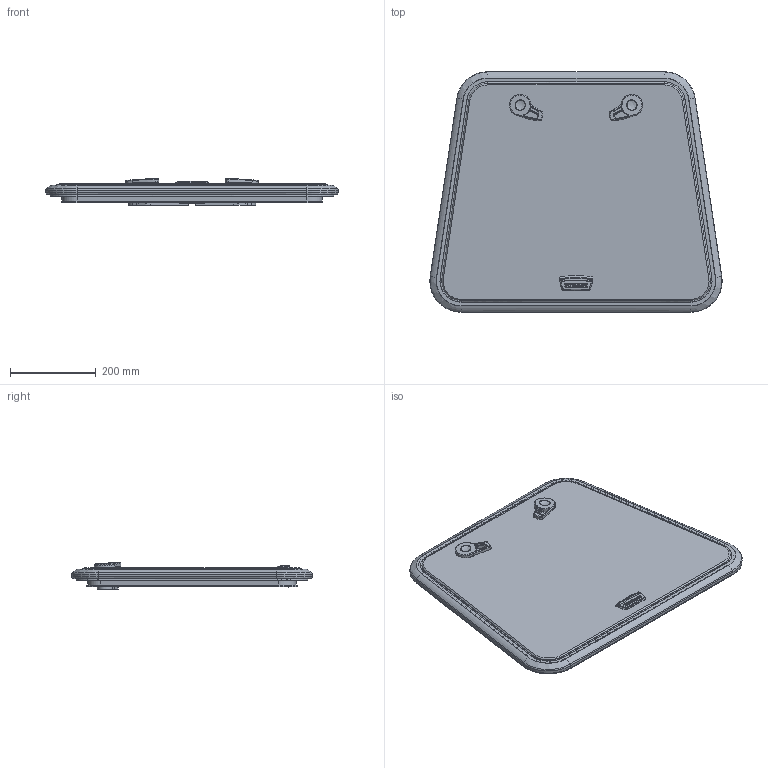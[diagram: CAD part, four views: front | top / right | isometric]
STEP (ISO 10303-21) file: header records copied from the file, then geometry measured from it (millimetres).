
FILE_DESCRIPTION((''),'2;1');
FILE_NAME('LEWMAR-HATCH-LOWPRO-65_ASM','2008-02-05T',('skennedy'),(''),'PRO/ENGINEER BY PARAMETRIC TECHNOLOGY CORPORATION, 2007030','PRO/ENGINEER BY PARAMETRIC TECHNOLOGY CORPORATION, 2007030','');
FILE_SCHEMA(('CONFIG_CONTROL_DESIGN'));
Length unit declared in the file: millimetre
Products named in the file (6): FRAME_65; 3596553X; HANDLE_LP_LHS; HANDLE_LP_RHS; HINGE_LEVER_LP; LEWMAR-HATCH-LOWPRO-65_ASM
Assembly tree (5 placements, depth 2):
  LEWMAR-HATCH-LOWPRO-65_ASM
    FRAME_65
    3596553X
    HANDLE_LP_LHS
    HANDLE_LP_RHS
    HINGE_LEVER_LP
Bounding box: 680.52 x 560 x 61.17 mm (x, y, z)
Volume: 5214532.6 mm3; surface area: 1092299.5 mm2
Topology: 5 solids, 5 shells, 886 faces, 2216 edges, 1356 vertices
Faces by surface type: bspline 346, plane 292, cylinder 135, cone 41, torus 35, extrusion 23, sphere 14
Entity records: 38208 total; most frequent: CARTESIAN_POINT 19326, ORIENTED_EDGE 4408, DIRECTION 2989, EDGE_CURVE 2204, VERTEX_POINT 1356, AXIS2_PLACEMENT_3D 1048, EDGE_LOOP 944, VECTOR 893
